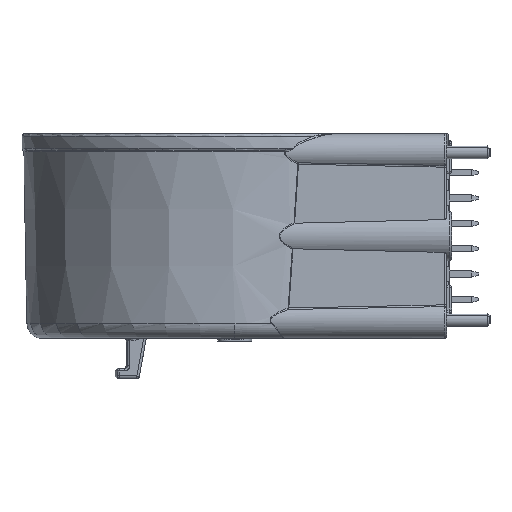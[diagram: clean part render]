
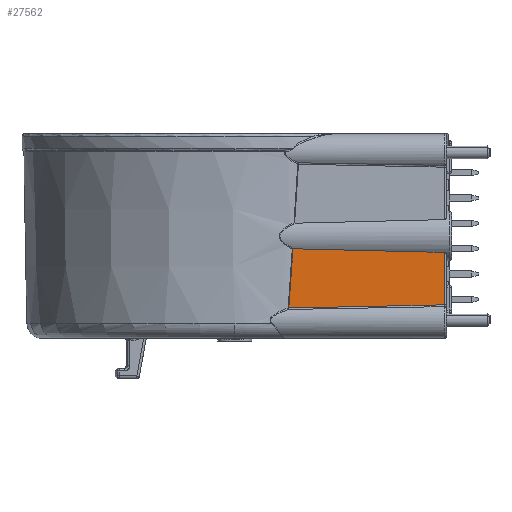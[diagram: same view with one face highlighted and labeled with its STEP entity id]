
A CAD part, left-side view. The second image highlights one B-rep face of the part: STEP entity #27562.
In plain terms, the highlighted planar face has unit normal (-1, -0.018, 0).
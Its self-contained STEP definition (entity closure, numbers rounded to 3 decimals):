
#195 = CARTESIAN_POINT ( 'NONE',  ( -20.15, -5.831, 7.965 ) ) ;
#314 = VERTEX_POINT ( 'NONE', #27262 ) ;
#920 = EDGE_CURVE ( 'NONE', #24568, #20418, #1103, .T. ) ;
#1103 =( BOUNDED_CURVE ( )  B_SPLINE_CURVE ( 3, ( #5853, #28486, #8924, #16883 ),
 .UNSPECIFIED., .F., .F. ) 
 B_SPLINE_CURVE_WITH_KNOTS ( ( 4, 4 ),
 ( 3.679, 3.857 ),
 .UNSPECIFIED. ) 
 CURVE ( )  GEOMETRIC_REPRESENTATION_ITEM ( )  RATIONAL_B_SPLINE_CURVE ( ( 1., 0.997, 0.997, 1. ) ) 
 REPRESENTATION_ITEM ( '' )  );
#1717 = CARTESIAN_POINT ( 'NONE',  ( -20.157, -5.38, 2.047 ) ) ;
#3521 = EDGE_CURVE ( 'NONE', #24568, #8042, #8713, .T. ) ;
#4977 = EDGE_LOOP ( 'NONE', ( #17036, #9598, #5300, #33939, #29736 ) ) ;
#5300 = ORIENTED_EDGE ( 'NONE', *, *, #7078, .T. ) ;
#5853 = CARTESIAN_POINT ( 'NONE',  ( -20.148, -5.924, 7.971 ) ) ;
#7078 = EDGE_CURVE ( 'NONE', #8042, #12082, #19281, .T. ) ;
#8042 = VERTEX_POINT ( 'NONE', #27157 ) ;
#8713 = B_SPLINE_CURVE_WITH_KNOTS ( 'NONE', 3,
 ( #11074, #22107, #22293, #17220, #30781, #195, #33134, #33493 ),
 .UNSPECIFIED., .F., .F.,
 ( 4, 2, 2, 4 ),
 ( 0., 0.25, 0.5, 1. ),
 .UNSPECIFIED. ) ;
#8924 = CARTESIAN_POINT ( 'NONE',  ( -19.984, -15.307, 7.722 ) ) ;
#9024 = DIRECTION ( 'NONE',  ( -0.017, 1., 0. ) ) ;
#9598 = ORIENTED_EDGE ( 'NONE', *, *, #3521, .T. ) ;
#10214 = CARTESIAN_POINT ( 'NONE',  ( -20.153, -5.663, 5.982 ) ) ;
#11074 = CARTESIAN_POINT ( 'NONE',  ( -20.148, -5.924, 7.971 ) ) ;
#12082 = VERTEX_POINT ( 'NONE', #26545 ) ;
#12920 = CARTESIAN_POINT ( 'NONE',  ( -20.15, -5.797, 7.95 ) ) ;
#15253 = CARTESIAN_POINT ( 'NONE',  ( -20.157, -5.38, 2.047 ) ) ;
#15462 = CARTESIAN_POINT ( 'NONE',  ( -20.155, -5.524, 4.015 ) ) ;
#15884 =( BOUNDED_CURVE ( )  B_SPLINE_CURVE ( 3, ( #15253, #23428, #18326, #35129 ),
 .UNSPECIFIED., .F., .F. ) 
 B_SPLINE_CURVE_WITH_KNOTS ( ( 4, 4 ),
 ( 3.748, 3.947 ),
 .UNSPECIFIED. ) 
 CURVE ( )  GEOMETRIC_REPRESENTATION_ITEM ( )  RATIONAL_B_SPLINE_CURVE ( ( 1., 0.997, 0.997, 1. ) ) 
 REPRESENTATION_ITEM ( '' )  );
#16805 = DIRECTION ( 'NONE',  ( -1., -0.017, 0. ) ) ;
#16883 = CARTESIAN_POINT ( 'NONE',  ( -19.886, -20.915, 7.609 ) ) ;
#17036 = ORIENTED_EDGE ( 'NONE', *, *, #920, .F. ) ;
#17220 = CARTESIAN_POINT ( 'NONE',  ( -20.149, -5.873, 7.97 ) ) ;
#18326 = CARTESIAN_POINT ( 'NONE',  ( -19.987, -15.139, 2.268 ) ) ;
#19135 = AXIS2_PLACEMENT_3D ( 'NONE', #20069, #16805, #9024 ) ;
#19281 = B_SPLINE_CURVE_WITH_KNOTS ( 'NONE', 3,
 ( #12920, #10214, #15462, #1717 ),
 .UNSPECIFIED., .F., .F.,
 ( 4, 4 ),
 ( 0., 0.006 ),
 .UNSPECIFIED. ) ;
#19544 = CARTESIAN_POINT ( 'NONE',  ( -19.886, -20.915, 7.609 ) ) ;
#20069 = CARTESIAN_POINT ( 'NONE',  ( -19.882, -21.16, 17.5 ) ) ;
#20418 = VERTEX_POINT ( 'NONE', #19544 ) ;
#21553 = LINE ( 'NONE', #23919, #27323 ) ;
#22107 = CARTESIAN_POINT ( 'NONE',  ( -20.148, -5.91, 7.971 ) ) ;
#22293 = CARTESIAN_POINT ( 'NONE',  ( -20.148, -5.897, 7.971 ) ) ;
#23428 = CARTESIAN_POINT ( 'NONE',  ( -20.078, -9.944, 2.162 ) ) ;
#23919 = CARTESIAN_POINT ( 'NONE',  ( -19.886, -20.915, 7.604 ) ) ;
#24568 = VERTEX_POINT ( 'NONE', #25364 ) ;
#25364 = CARTESIAN_POINT ( 'NONE',  ( -20.148, -5.924, 7.971 ) ) ;
#26545 = CARTESIAN_POINT ( 'NONE',  ( -20.157, -5.38, 2.047 ) ) ;
#27157 = CARTESIAN_POINT ( 'NONE',  ( -20.15, -5.797, 7.95 ) ) ;
#27262 = CARTESIAN_POINT ( 'NONE',  ( -19.886, -20.915, 2.365 ) ) ;
#27323 = VECTOR ( 'NONE', #35106, 1000. ) ;
#27562 = ADVANCED_FACE ( 'NONE', ( #30921 ), #33094, .T. ) ;
#28486 = CARTESIAN_POINT ( 'NONE',  ( -20.072, -10.297, 7.843 ) ) ;
#29736 = ORIENTED_EDGE ( 'NONE', *, *, #32316, .T. ) ;
#30781 = CARTESIAN_POINT ( 'NONE',  ( -20.149, -5.863, 7.97 ) ) ;
#30921 = FACE_OUTER_BOUND ( 'NONE', #4977, .T. ) ;
#32316 = EDGE_CURVE ( 'NONE', #314, #20418, #21553, .T. ) ;
#33094 = PLANE ( 'NONE',  #19135 ) ;
#33134 = CARTESIAN_POINT ( 'NONE',  ( -20.15, -5.813, 7.959 ) ) ;
#33493 = CARTESIAN_POINT ( 'NONE',  ( -20.15, -5.797, 7.95 ) ) ;
#33939 = ORIENTED_EDGE ( 'NONE', *, *, #34731, .T. ) ;
#34731 = EDGE_CURVE ( 'NONE', #12082, #314, #15884, .T. ) ;
#35106 = DIRECTION ( 'NONE',  ( 0., 0., 1. ) ) ;
#35129 = CARTESIAN_POINT ( 'NONE',  ( -19.886, -20.915, 2.365 ) ) ;
